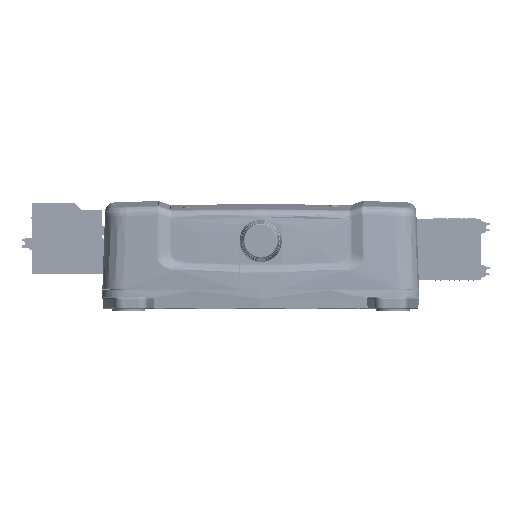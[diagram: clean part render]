
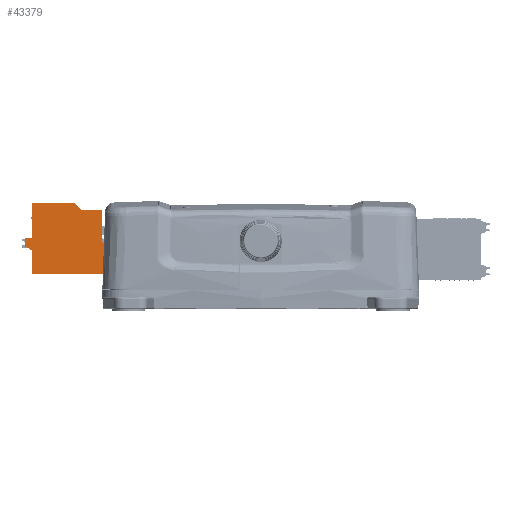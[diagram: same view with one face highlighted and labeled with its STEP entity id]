
A CAD part, left-side view. The second image highlights one B-rep face of the part: STEP entity #43379.
In plain terms, the highlighted planar face has unit normal (-1, 0, 0) as drawn and (0, 1, 0) by its records, which use the part's own axes.
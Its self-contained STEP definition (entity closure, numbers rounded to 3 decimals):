
#2627 = ORIENTED_EDGE ( 'NONE', *, *, #56415, .F. ) ;
#7293 = LINE ( 'NONE', #55746, #138979 ) ;
#8882 = VECTOR ( 'NONE', #82041, 1000. ) ;
#10180 = EDGE_CURVE ( 'NONE', #46728, #86684, #23477, .T. ) ;
#11213 = DIRECTION ( 'NONE',  ( 0., 0., -1. ) ) ;
#11885 = CARTESIAN_POINT ( 'NONE',  ( 6.95, 5.43, -8.9 ) ) ;
#11957 = DIRECTION ( 'NONE',  ( -1., 0., 0. ) ) ;
#12819 = VERTEX_POINT ( 'NONE', #81774 ) ;
#14113 = ORIENTED_EDGE ( 'NONE', *, *, #14876, .F. ) ;
#14876 = EDGE_CURVE ( 'NONE', #114374, #129709, #53503, .T. ) ;
#16312 = CARTESIAN_POINT ( 'NONE',  ( 6.45, 5.43, -8.4 ) ) ;
#17830 = VECTOR ( 'NONE', #35267, 1000. ) ;
#18049 = VERTEX_POINT ( 'NONE', #130119 ) ;
#19744 = EDGE_CURVE ( 'NONE', #107459, #125874, #88564, .T. ) ;
#20732 = CARTESIAN_POINT ( 'NONE',  ( 7.6, 5.43, -23.7 ) ) ;
#20895 = CARTESIAN_POINT ( 'NONE',  ( 15., 5.43, -14.6 ) ) ;
#21583 = CIRCLE ( 'NONE', #110463, 0.25 ) ;
#23477 = LINE ( 'NONE', #135636, #118140 ) ;
#25777 = ORIENTED_EDGE ( 'NONE', *, *, #10180, .F. ) ;
#26995 = ORIENTED_EDGE ( 'NONE', *, *, #71341, .T. ) ;
#27598 = DIRECTION ( 'NONE',  ( -1., 0., 0. ) ) ;
#27805 = CARTESIAN_POINT ( 'NONE',  ( 15., 5.43, -23.7 ) ) ;
#30717 = DIRECTION ( 'NONE',  ( 0., 1., 0. ) ) ;
#35267 = DIRECTION ( 'NONE',  ( -1., 0., 0. ) ) ;
#36838 = ORIENTED_EDGE ( 'NONE', *, *, #77221, .T. ) ;
#36868 = CARTESIAN_POINT ( 'NONE',  ( 7.6, 5.43, -25.2 ) ) ;
#40162 = VECTOR ( 'NONE', #80635, 1000. ) ;
#41611 = DIRECTION ( 'NONE',  ( -0.707, 0., 0.707 ) ) ;
#41693 = DIRECTION ( 'NONE',  ( -1., 0., 0. ) ) ;
#43379 = ADVANCED_FACE ( 'NONE', ( #85623 ), #138162, .T. ) ;
#44779 = LINE ( 'NONE', #141054, #60126 ) ;
#46728 = VERTEX_POINT ( 'NONE', #96421 ) ;
#46805 = CARTESIAN_POINT ( 'NONE',  ( 13.6, 5.43, -13.2 ) ) ;
#47829 = DIRECTION ( 'NONE',  ( -1., 0., 0. ) ) ;
#47864 = CARTESIAN_POINT ( 'NONE',  ( 11.6, 5.43, -23.7 ) ) ;
#48252 = EDGE_CURVE ( 'NONE', #129005, #139634, #88348, .T. ) ;
#48403 = ORIENTED_EDGE ( 'NONE', *, *, #53821, .F. ) ;
#48555 = CARTESIAN_POINT ( 'NONE',  ( 7.6, 5.43, -23.7 ) ) ;
#50751 = ORIENTED_EDGE ( 'NONE', *, *, #68748, .T. ) ;
#53304 = CARTESIAN_POINT ( 'NONE',  ( 0., 5.43, -8.4 ) ) ;
#53503 = LINE ( 'NONE', #150542, #127344 ) ;
#53782 = DIRECTION ( 'NONE',  ( 1., 0., 0. ) ) ;
#53821 = EDGE_CURVE ( 'NONE', #12819, #82299, #21583, .T. ) ;
#54581 = ORIENTED_EDGE ( 'NONE', *, *, #155563, .T. ) ;
#55746 = CARTESIAN_POINT ( 'NONE',  ( 6.95, 5.43, -8.9 ) ) ;
#56415 = EDGE_CURVE ( 'NONE', #86684, #107459, #7293, .T. ) ;
#56824 = ORIENTED_EDGE ( 'NONE', *, *, #87673, .T. ) ;
#60126 = VECTOR ( 'NONE', #11957, 1000. ) ;
#60484 = LINE ( 'NONE', #48555, #115491 ) ;
#63630 = VECTOR ( 'NONE', #27598, 1000. ) ;
#66061 = VECTOR ( 'NONE', #138467, 1000. ) ;
#68582 = LINE ( 'NONE', #20895, #8882 ) ;
#68736 = CARTESIAN_POINT ( 'NONE',  ( 13.6, 5.43, -8.9 ) ) ;
#68748 = EDGE_CURVE ( 'NONE', #46728, #129709, #93319, .T. ) ;
#71341 = EDGE_CURVE ( 'NONE', #73688, #82299, #136581, .T. ) ;
#71680 = LINE ( 'NONE', #47864, #94487 ) ;
#73688 = VERTEX_POINT ( 'NONE', #27805 ) ;
#74054 = CARTESIAN_POINT ( 'NONE',  ( 7.6, 5.43, -25.2 ) ) ;
#75111 = DIRECTION ( 'NONE',  ( -1., 0., 0. ) ) ;
#77221 = EDGE_CURVE ( 'NONE', #123535, #139634, #131534, .T. ) ;
#80635 = DIRECTION ( 'NONE',  ( 0., 0., -1. ) ) ;
#81774 = CARTESIAN_POINT ( 'NONE',  ( 11.6, 5.43, -23.7 ) ) ;
#82041 = DIRECTION ( 'NONE',  ( 0., 0., -1. ) ) ;
#82299 = VERTEX_POINT ( 'NONE', #119590 ) ;
#82826 = ORIENTED_EDGE ( 'NONE', *, *, #19744, .F. ) ;
#85623 = FACE_OUTER_BOUND ( 'NONE', #149332, .T. ) ;
#86137 = CARTESIAN_POINT ( 'NONE',  ( 0., 5.43, -8.4 ) ) ;
#86403 = CARTESIAN_POINT ( 'NONE',  ( 15., 5.43, -23.7 ) ) ;
#86684 = VERTEX_POINT ( 'NONE', #11885 ) ;
#87597 = CARTESIAN_POINT ( 'NONE',  ( 5.866, 5.43, -25.2 ) ) ;
#87673 = EDGE_CURVE ( 'NONE', #156893, #123535, #60484, .T. ) ;
#88348 = LINE ( 'NONE', #136972, #89408 ) ;
#88564 = LINE ( 'NONE', #16312, #109065 ) ;
#89014 = CARTESIAN_POINT ( 'NONE',  ( 15., 5.43, -14.6 ) ) ;
#89408 = VECTOR ( 'NONE', #95364, 1000. ) ;
#89818 = LINE ( 'NONE', #53304, #66061 ) ;
#93319 = LINE ( 'NONE', #68736, #40162 ) ;
#94487 = VECTOR ( 'NONE', #95514, 1000. ) ;
#94648 = EDGE_CURVE ( 'NONE', #125874, #18049, #89818, .T. ) ;
#95364 = DIRECTION ( 'NONE',  ( 0.5, 0., -0.866 ) ) ;
#95514 = DIRECTION ( 'NONE',  ( -1., 0., 0. ) ) ;
#96421 = CARTESIAN_POINT ( 'NONE',  ( 13.6, 5.43, -8.9 ) ) ;
#103063 = CARTESIAN_POINT ( 'NONE',  ( 7.5, 5.43, -16.8 ) ) ;
#104254 = DIRECTION ( 'NONE',  ( -0.707, 0., 0.707 ) ) ;
#107441 = DIRECTION ( 'NONE',  ( 0., -1., 0. ) ) ;
#107459 = VERTEX_POINT ( 'NONE', #108173 ) ;
#108173 = CARTESIAN_POINT ( 'NONE',  ( 6.45, 5.43, -8.4 ) ) ;
#109065 = VECTOR ( 'NONE', #41693, 1000. ) ;
#110463 = AXIS2_PLACEMENT_3D ( 'NONE', #156759, #107441, #47829 ) ;
#114374 = VERTEX_POINT ( 'NONE', #89014 ) ;
#115491 = VECTOR ( 'NONE', #11213, 1000. ) ;
#118140 = VECTOR ( 'NONE', #75111, 1000. ) ;
#119061 = AXIS2_PLACEMENT_3D ( 'NONE', #103063, #30717, #53782 ) ;
#119590 = CARTESIAN_POINT ( 'NONE',  ( 12.1, 5.43, -23.7 ) ) ;
#122866 = ORIENTED_EDGE ( 'NONE', *, *, #131899, .T. ) ;
#123485 = EDGE_CURVE ( 'NONE', #12819, #156893, #71680, .T. ) ;
#123535 = VERTEX_POINT ( 'NONE', #74054 ) ;
#125292 = ORIENTED_EDGE ( 'NONE', *, *, #48252, .F. ) ;
#125874 = VERTEX_POINT ( 'NONE', #86137 ) ;
#127344 = VECTOR ( 'NONE', #41611, 1000. ) ;
#128619 = ORIENTED_EDGE ( 'NONE', *, *, #94648, .F. ) ;
#129005 = VERTEX_POINT ( 'NONE', #147367 ) ;
#129709 = VERTEX_POINT ( 'NONE', #46805 ) ;
#130119 = CARTESIAN_POINT ( 'NONE',  ( 0., 5.43, -23.7 ) ) ;
#131534 = LINE ( 'NONE', #36868, #17830 ) ;
#131899 = EDGE_CURVE ( 'NONE', #129005, #18049, #44779, .T. ) ;
#135636 = CARTESIAN_POINT ( 'NONE',  ( 13.6, 5.43, -8.9 ) ) ;
#136581 = LINE ( 'NONE', #86403, #63630 ) ;
#136972 = CARTESIAN_POINT ( 'NONE',  ( 5., 5.43, -23.7 ) ) ;
#138162 = PLANE ( 'NONE',  #119061 ) ;
#138467 = DIRECTION ( 'NONE',  ( 0., 0., -1. ) ) ;
#138979 = VECTOR ( 'NONE', #104254, 1000. ) ;
#139634 = VERTEX_POINT ( 'NONE', #87597 ) ;
#141054 = CARTESIAN_POINT ( 'NONE',  ( 5., 5.43, -23.7 ) ) ;
#147367 = CARTESIAN_POINT ( 'NONE',  ( 5., 5.43, -23.7 ) ) ;
#149332 = EDGE_LOOP ( 'NONE', ( #26995, #48403, #151488, #56824, #36838, #125292, #122866, #128619, #82826, #2627, #25777, #50751, #14113, #54581 ) ) ;
#150542 = CARTESIAN_POINT ( 'NONE',  ( 15., 5.43, -14.6 ) ) ;
#151488 = ORIENTED_EDGE ( 'NONE', *, *, #123485, .T. ) ;
#155563 = EDGE_CURVE ( 'NONE', #114374, #73688, #68582, .T. ) ;
#156759 = CARTESIAN_POINT ( 'NONE',  ( 11.85, 5.43, -23.7 ) ) ;
#156893 = VERTEX_POINT ( 'NONE', #20732 ) ;
